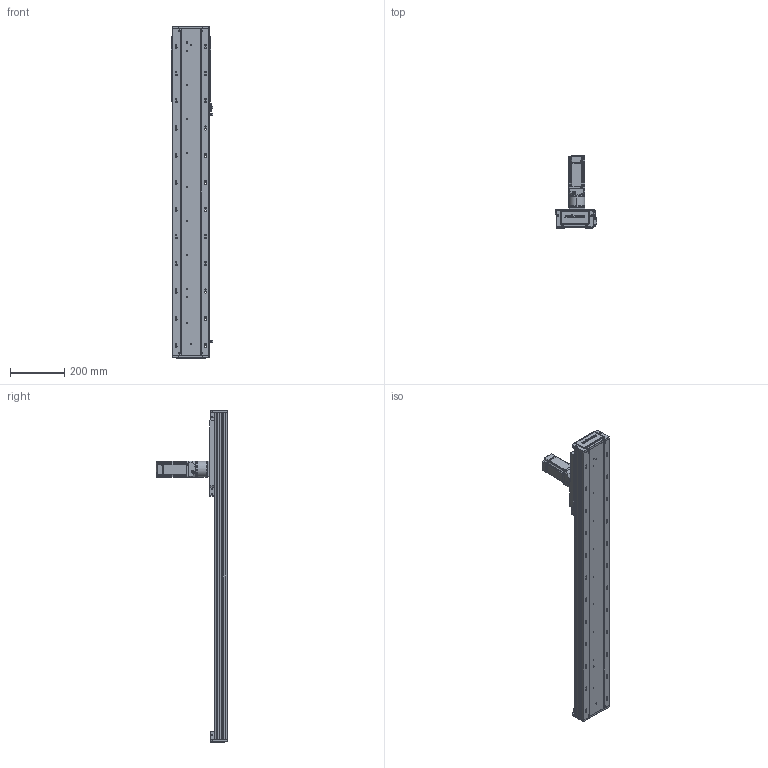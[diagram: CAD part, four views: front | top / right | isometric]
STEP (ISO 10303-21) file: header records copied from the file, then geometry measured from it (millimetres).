
FILE_DESCRIPTION (( 'STEP AP203' ), '1' );
FILE_NAME ('RY140-C-250-UK.SLDASM_850.step', '2022-03-12T01:58:35', ( '' ), ( '' ), 'SwSTEP 2.0', 'SolidWorks 2016', '' );
FILE_SCHEMA (( 'CONFIG_CONTROL_DESIGN' ));
Length unit declared in the file: millimetre
Products named in the file (12): 140蚥薯蝶輸; 絳寢賑輸EGH15; 覜茼ん672; RY140-喘謫萇儂覃誹啣; RY140-絳寢EGH15-300-MK_850; RY120外置感应片(140共用）; 60ZDF珨撰俋倛芞T1 200W M4; RY140-300齿条模组型材底座_850; 15; RY140-喘沭賑輸; RY140-C-250-UK.SLDASM_850; RY140-喘沭裔啣
Assembly tree (21 placements, depth 2):
  RY140-C-250-UK.SLDASM_850
    RY140-300齿条模组型材底座_850
    RY140-絳寢EGH15-300-MK_850  x2
    絳寢賑輸EGH15  x6
    RY140-喘沭裔啣  x2
    覜茼ん672  x3
    RY140-喘沭賑輸
    RY120外置感应片(140共用）
    RY140-喘謫萇儂覃誹啣
    140蚥薯蝶輸  x2
    60ZDF珨撰俋倛芞T1 200W M4
    15
Bounding box: 153.7 x 263.5 x 1222 mm (x, y, z)
Volume: 4687130.7 mm3; surface area: 1209699.4 mm2
Topology: 21 solids, 21 shells, 3344 faces, 8862 edges, 5738 vertices
Faces by surface type: plane 1642, cylinder 1428, cone 228, bspline 46
Entity records: 73965 total; most frequent: CARTESIAN_POINT 15942, DIRECTION 11817, ORIENTED_EDGE 11734, EDGE_CURVE 5867, AXIS2_PLACEMENT_3D 4190, VERTEX_POINT 3839, LINE 3437, VECTOR 3437
